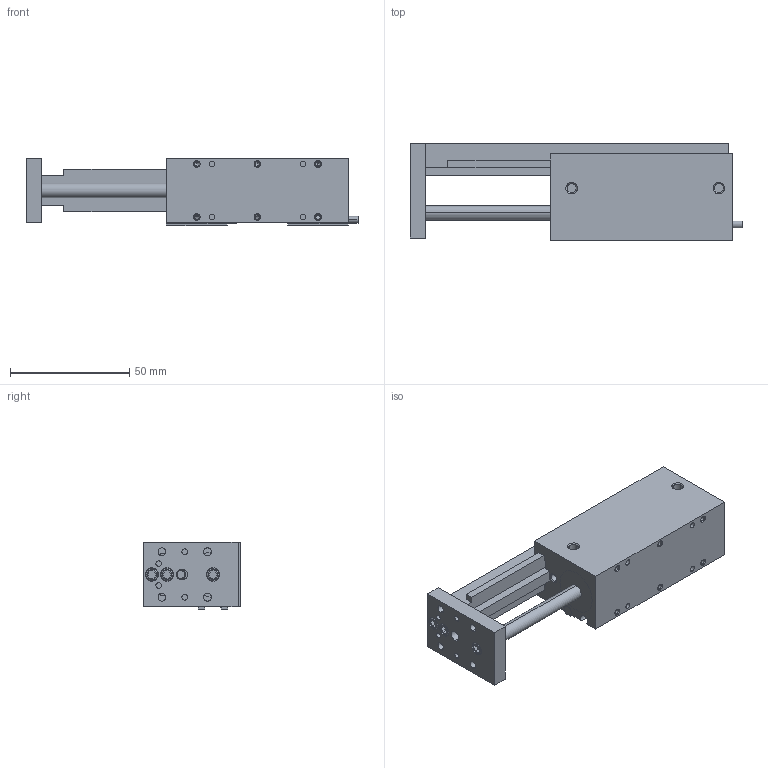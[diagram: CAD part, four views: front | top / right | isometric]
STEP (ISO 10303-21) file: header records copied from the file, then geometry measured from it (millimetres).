
FILE_DESCRIPTION (( 'STEP AP203' ), '1' );
FILE_NAME ('AGMS-2-4 EXTENDED in IN.STEP', '2014-11-06T16:09:41', ( 'setup' ), ( '' ), 'SwSTEP 2.0', 'SolidWorks 2013', '' );
FILE_SCHEMA (( 'CONFIG_CONTROL_DESIGN' ));
Length unit declared in the file: inch
Products named in the file (7): AGMS-2-4 CUSHION; AGMS-2-4 RAIL; AGMS-2-4 TOOL PLATE; AGMS-2-4 PROD; AGMS-2-4 SENSOR; AGMS-2-4 EXTENDED in IN; AGMS-2-4 BODY
Assembly tree (7 placements, depth 2):
  AGMS-2-4 EXTENDED in IN
    AGMS-2-4 BODY
    AGMS-2-4 CUSHION
    AGMS-2-4 RAIL
    AGMS-2-4 TOOL PLATE
    AGMS-2-4 PROD
    AGMS-2-4 SENSOR  x2
Bounding box: 138.95 x 40.84 x 28.2 mm (x, y, z)
Volume: 88853.8 mm3; surface area: 32697.9 mm2
Topology: 7 solids, 7 shells, 339 faces, 785 edges, 490 vertices
Faces by surface type: plane 135, cylinder 132, cone 64, torus 8
Entity records: 9727 total; most frequent: CARTESIAN_POINT 1636, DIRECTION 1634, ORIENTED_EDGE 1412, EDGE_CURVE 706, AXIS2_PLACEMENT_3D 620, VERTEX_POINT 450, VECTOR 394, LINE 394
